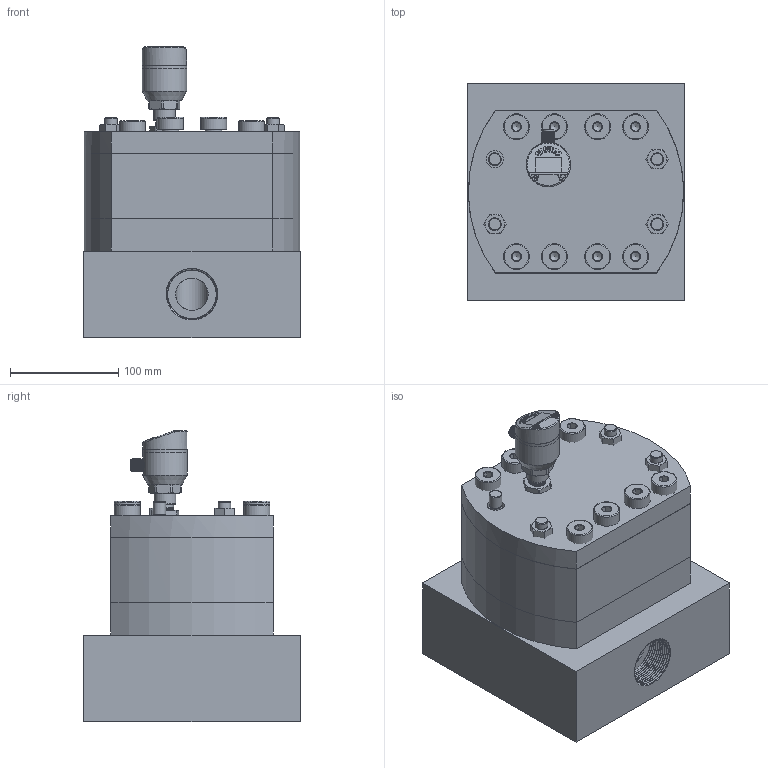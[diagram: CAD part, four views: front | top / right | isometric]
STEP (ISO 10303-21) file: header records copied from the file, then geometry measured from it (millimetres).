
FILE_DESCRIPTION( (''), '2;1');
FILE_NAME( 'QZKB_250L_M32_mounting-plate.step', '2025-05-06T15:27:54+08:00', (''), (''), '', '', '');
FILE_SCHEMA (('AUTOMOTIVE_DESIGN { 1 0 10303 214 3 1 1 1 }'));
Products named in the file (1): QZKB 250L_M32_mounting-plate
Bounding box: 200 x 200 x 269.1 mm (x, y, z)
Volume: 6050614.3 mm3; surface area: 584438 mm2
Topology: 23 solids, 25 shells, 1015 faces, 2269 edges, 1366 vertices
Faces by surface type: plane 389, cylinder 265, cone 234, torus 75, bspline 46, sphere 6
Full cylindrical faces by diameter (mm): 1 x5, 2.7 x4, 8 x12, 8.4 x1, 9.57 x12, 9.7 x1, 9.8 x1, 10.1 x1, 10.3 x4, 10.782 x3, 11.6 x1, 11.701 x12, 12 x1, 15.42 x12, 15.9 x1, 16 x48, 20 x1, 23 x3, 24 x12, 26 x8, 26.1 x1, 30 x3, 37 x1, 41 x3
Entity records: 49974 total; most frequent: CARTESIAN_POINT 27750, DIRECTION 4320, ORIENTED_EDGE 3730, EDGE_CURVE 1865, AXIS2_PLACEMENT_3D 1834, EDGE_LOOP 1451, VERTEX_POINT 1278, ADVANCED_FACE 1013
